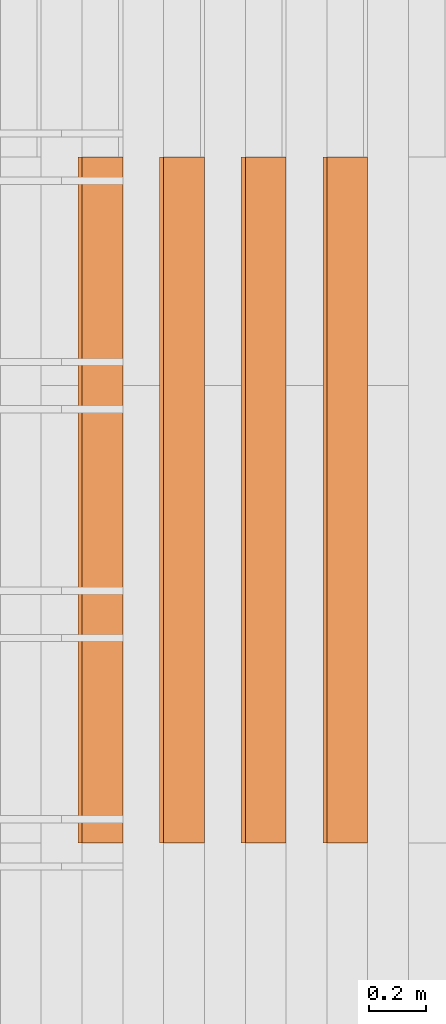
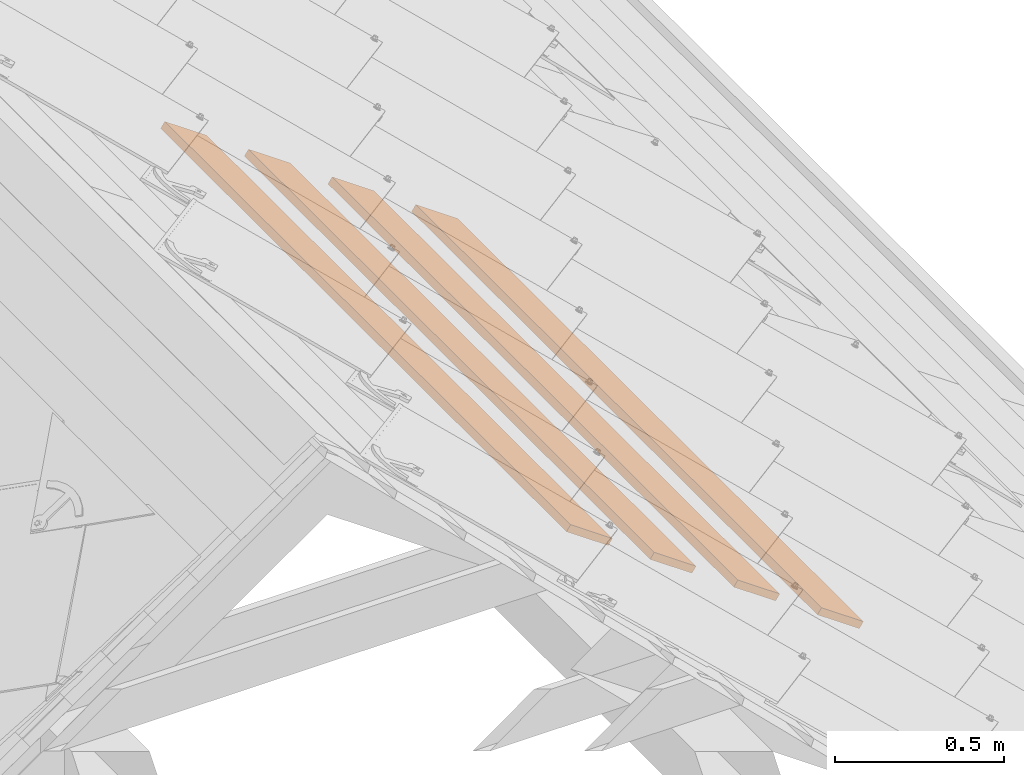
# One storey, part 61 of 133: 4 proxies, 1 element without a shape of its own.
"""IFC2X3 building model written with IfcOpenShell, lengths in millimetres."""

from ifc_helpers import new_model, entity, si_unit, converted_unit, derived_unit, direction, frame, frame_2d, origin, place, context, subcontext, project, spatial, rectangle, extrude, source, transform, mapped, material, type_object, type_shapes, element, aggregate, save


model = new_model("IFC2X3")

# Units and contexts
model_context = context("Model", 3, precision=0.01, world=origin(), true_north=direction((6.12303176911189e-17, 1.0)))
body_context = subcontext(model_context, "Body", "Model", "MODEL_VIEW")
ifc_project = project(units=[si_unit("LENGTHUNIT", "METRE", prefix="MILLI"), si_unit("AREAUNIT", "SQUARE_METRE"), si_unit("VOLUMEUNIT", "CUBIC_METRE"), converted_unit("PLANEANGLEUNIT", "DEGREE", entity("IfcRatioMeasure", 0.0174532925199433), si_unit("PLANEANGLEUNIT", "RADIAN"), dimensions=[0, 0, 0, 0, 0, 0, 0]), si_unit("MASSUNIT", "GRAM", prefix="KILO"), derived_unit("MASSDENSITYUNIT", [(si_unit("MASSUNIT", "GRAM", prefix="KILO"), 1), (si_unit("LENGTHUNIT", "METRE"), -3)]), si_unit("TIMEUNIT", "SECOND"), si_unit("FREQUENCYUNIT", "HERTZ"), si_unit("THERMODYNAMICTEMPERATUREUNIT", "DEGREE_CELSIUS"), derived_unit("THERMALTRANSMITTANCEUNIT", [(si_unit("MASSUNIT", "GRAM", prefix="KILO"), 1), (si_unit("THERMODYNAMICTEMPERATUREUNIT", "KELVIN"), -1), (si_unit("TIMEUNIT", "SECOND"), -3)]), derived_unit("VOLUMETRICFLOWRATEUNIT", [(si_unit("LENGTHUNIT", "METRE"), 3), (si_unit("TIMEUNIT", "SECOND"), -1)]), si_unit("ELECTRICCURRENTUNIT", "AMPERE"), si_unit("ELECTRICVOLTAGEUNIT", "VOLT"), si_unit("POWERUNIT", "WATT"), si_unit("FORCEUNIT", "NEWTON", prefix="KILO"), si_unit("ILLUMINANCEUNIT", "LUX"), si_unit("LUMINOUSFLUXUNIT", "LUMEN"), si_unit("LUMINOUSINTENSITYUNIT", "CANDELA"), derived_unit("USERDEFINED", [(si_unit("MASSUNIT", "GRAM", prefix="KILO"), -1), (si_unit("LENGTHUNIT", "METRE"), -2), (si_unit("TIMEUNIT", "SECOND"), 3), (si_unit("LUMINOUSFLUXUNIT", "LUMEN"), 1)]), derived_unit("LINEARVELOCITYUNIT", [(si_unit("LENGTHUNIT", "METRE"), 1), (si_unit("TIMEUNIT", "SECOND"), -1)]), si_unit("PRESSUREUNIT", "PASCAL"), derived_unit("USERDEFINED", [(si_unit("LENGTHUNIT", "METRE"), -2), (si_unit("MASSUNIT", "GRAM", prefix="KILO"), 1), (si_unit("TIMEUNIT", "SECOND"), -2)])], contexts=[model_context])

# Site, building, storey
site_placement = place(None, origin())
site = spatial("IfcSite", under=ifc_project, at=site_placement, Name="Default", CompositionType="ELEMENT")
building_placement = place(site_placement, origin())
building = spatial("IfcBuilding", under=site, at=building_placement, CompositionType="ELEMENT")
storey_placement = place(building_placement, origin())
storey = spatial("IfcBuildingStorey", under=building, at=storey_placement, Name="Level 1", CompositionType="ELEMENT", Elevation=0.0)

# Assembly, proxies
assembly_placement = place(storey_placement, origin())
assembly = element("IfcElementAssembly", 1, at=assembly_placement, inside=storey, Name="Structural Framing Assembly:Roof Construction Assembly", ObjectType="Structural Framing Assembly:Roof Construction Assembly", AssemblyPlace="NOTDEFINED", PredefinedType="USERDEFINED")
ifc_material = material(Name="Wood - Generic - Wood For Showcase")
building_element_proxy_type_1 = type_object("IfcBuildingElementProxyType", Name="Structural Framing 15", PredefinedType="NOTDEFINED", material=ifc_material)
shared_shape_1 = source(origin(), body_context, "Body", "SweptSolid", [
    extrude(rectangle(XDim=24.9999999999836, YDim=174.344679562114, at=frame_2d((2.97539770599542e-13, -4.2632564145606e-14), x_axis=(1.0, 0.0))), frame((1285.35601305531, 1525.55080214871, 2760.23940055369), z_axis=(0.0, 1.0, 0.0), x_axis=(0.573576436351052, 0.0, 0.819152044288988)), (0.0, 0.0, 1.0), 2400.0),
])
type_shapes(building_element_proxy_type_1, [shared_shape_1])
proxy_1_placement = place(assembly_placement, frame((856.888804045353, -2470.0, -600.0)))
proxy_1 = element("IfcBuildingElementProxy", 2, at=proxy_1_placement, type_object=building_element_proxy_type_1, material=ifc_material, Name="Structural Framing 186:Structural Framing 15", ObjectType="Structural Framing 186:Structural Framing 15", context=body_context, shape_type="MappedRepresentation", body=[
    mapped(shared_shape_1, transform((0.0, 0.0, 0.0), scale=1.0)),
])
building_element_proxy_type_2 = type_object("IfcBuildingElementProxyType", Name="Structural Framing 15", PredefinedType="NOTDEFINED", material=ifc_material)
shared_shape_2 = source(origin(), body_context, "Body", "SweptSolid", [
    extrude(rectangle(XDim=24.9999999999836, YDim=174.344679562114, at=frame_2d((2.97539770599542e-13, -4.2632564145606e-14), x_axis=(1.0, 0.0))), frame((1285.35601305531, 1525.55080214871, 2760.23940055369), z_axis=(0.0, 1.0, 0.0), x_axis=(0.573576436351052, 0.0, 0.819152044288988)), (0.0, 0.0, 1.0), 2400.0),
])
type_shapes(building_element_proxy_type_2, [shared_shape_2])
proxy_2_placement = place(assembly_placement, frame((1142.5184053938, -2470.0, -800.0)))
proxy_2 = element("IfcBuildingElementProxy", 3, at=proxy_2_placement, type_object=building_element_proxy_type_2, material=ifc_material, Name="Structural Framing 196:Structural Framing 15", ObjectType="Structural Framing 196:Structural Framing 15", context=body_context, shape_type="MappedRepresentation", body=[
    mapped(shared_shape_2, transform((0.0, 0.0, 0.0), scale=1.0)),
])
building_element_proxy_type_3 = type_object("IfcBuildingElementProxyType", Name="Structural Framing 15", PredefinedType="NOTDEFINED", material=ifc_material)
shared_shape_3 = source(origin(), body_context, "Body", "SweptSolid", [
    extrude(rectangle(XDim=24.9999999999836, YDim=174.344679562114, at=frame_2d((2.97539770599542e-13, -4.2632564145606e-14), x_axis=(1.0, 0.0))), frame((1285.35601305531, 1525.55080214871, 2760.23940055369), z_axis=(0.0, 1.0, 0.0), x_axis=(0.573576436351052, 0.0, 0.819152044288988)), (0.0, 0.0, 1.0), 2400.0),
])
type_shapes(building_element_proxy_type_3, [shared_shape_3])
proxy_3_placement = place(assembly_placement, frame((1428.14800674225, -2470.0, -1000.0)))
proxy_3 = element("IfcBuildingElementProxy", 4, at=proxy_3_placement, type_object=building_element_proxy_type_3, material=ifc_material, Name="Structural Framing 206:Structural Framing 15", ObjectType="Structural Framing 206:Structural Framing 15", context=body_context, shape_type="MappedRepresentation", body=[
    mapped(shared_shape_3, transform((0.0, 0.0, 0.0), scale=1.0)),
])
building_element_proxy_type_4 = type_object("IfcBuildingElementProxyType", Name="Structural Framing 15", PredefinedType="NOTDEFINED", material=ifc_material)
shared_shape_4 = source(origin(), body_context, "Body", "SweptSolid", [
    extrude(rectangle(XDim=24.9999999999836, YDim=174.344679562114, at=frame_2d((2.97539770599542e-13, -4.2632564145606e-14), x_axis=(1.0, 0.0))), frame((1285.35601305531, 1525.55080214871, 2760.23940055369), z_axis=(0.0, 1.0, 0.0), x_axis=(0.573576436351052, 0.0, 0.819152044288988)), (0.0, 0.0, 1.0), 2400.0),
])
type_shapes(building_element_proxy_type_4, [shared_shape_4])
proxy_4_placement = place(assembly_placement, frame((1713.7776080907, -2470.0, -1200.0)))
proxy_4 = element("IfcBuildingElementProxy", 5, at=proxy_4_placement, type_object=building_element_proxy_type_4, material=ifc_material, Name="Structural Framing 216:Structural Framing 15", ObjectType="Structural Framing 216:Structural Framing 15", context=body_context, shape_type="MappedRepresentation", body=[
    mapped(shared_shape_4, transform((0.0, 0.0, 0.0), scale=1.0)),
])
aggregate(assembly, [proxy_1, proxy_2, proxy_3, proxy_4])

save(model, "model.ifc")
